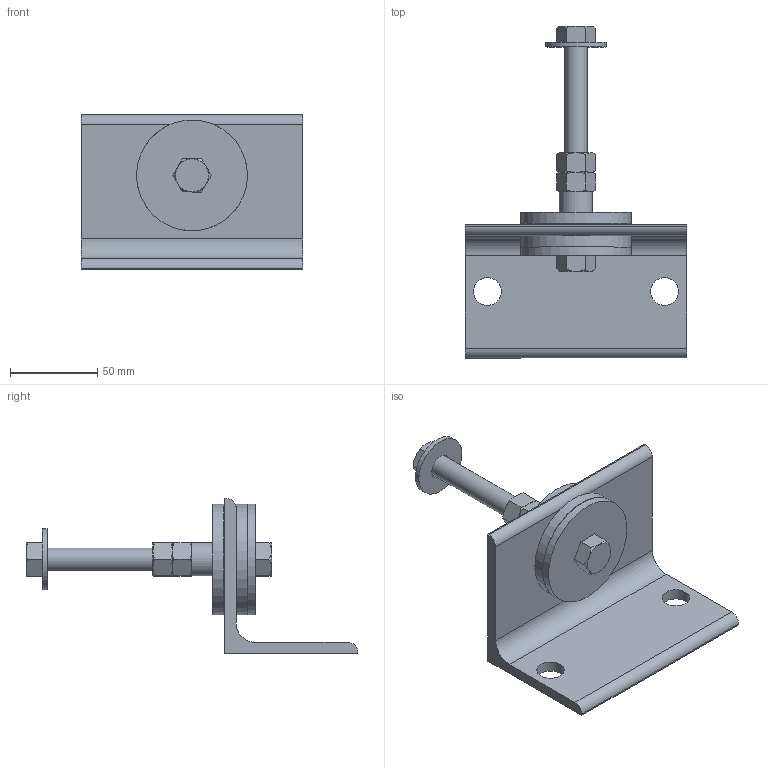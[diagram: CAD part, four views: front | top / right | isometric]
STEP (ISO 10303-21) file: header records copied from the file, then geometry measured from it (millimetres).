
FILE_DESCRIPTION((''),'2;1');
FILE_NAME('C:\2012_Work\Designs\Z-1225\Z-1225-250\A-31438 Z-1225-250.stp','2013-10-02T14:24:05',('KShiels'),(''),'Autodesk Inventor 2012','Autodesk Inventor 2012','');
FILE_SCHEMA(('AUTOMOTIVE_DESIGN { 1 0 10303 214 1 1 1 1 }'));
Length unit declared in the file: inch
Products named in the file (9): A-31438 Z-1225-250; A-31440 2.5 OD DISK; AISC - L 3.5 x 3 x 1_4 - 5; A-31440 BUSHING; A-31440 [UN]TAPPED BUSHING; A-31440 0.5 x 4in BOLT; Hex Nut - Inch 1/2 - 13; Plain Washer (Inch) 1/2 - wide - Type A; A-31440 0.5 x 0
Assembly tree (9 placements, depth 2):
  A-31438 Z-1225-250
    A-31440 2.5 OD DISK
    AISC - L 3.5 x 3 x 1_4 - 5
    A-31440 BUSHING
    A-31440 [UN]TAPPED BUSHING
    A-31440 0.5 x 4in BOLT
    Hex Nut - Inch 1/2 - 13  x2
    Plain Washer (Inch) 1/2 - wide - Type A
    A-31440 0.5 x 0
Bounding box: 127 x 190.22 x 88.9 mm (x, y, z)
Volume: 194916 mm3; surface area: 76775.6 mm2
Topology: 8 solids, 9 shells, 112 faces, 260 edges, 169 vertices
Faces by surface type: plane 53, cone 37, cylinder 20, bspline 2
Full cylindrical faces by diameter (mm): 10.592 x2, 12.7 x3, 13.494 x1, 14.275 x1, 15.875 x2, 19.05 x1, 31.75 x1, 34.925 x1, 44.45 x1, 45.244 x1, 63.5 x3
Entity records: 3816 total; most frequent: CARTESIAN_POINT 1728, DIRECTION 392, ORIENTED_EDGE 340, EDGE_CURVE 170, AXIS2_PLACEMENT_3D 166, EDGE_LOOP 129, VERTEX_POINT 121, FACE_OUTER_BOUND 89
